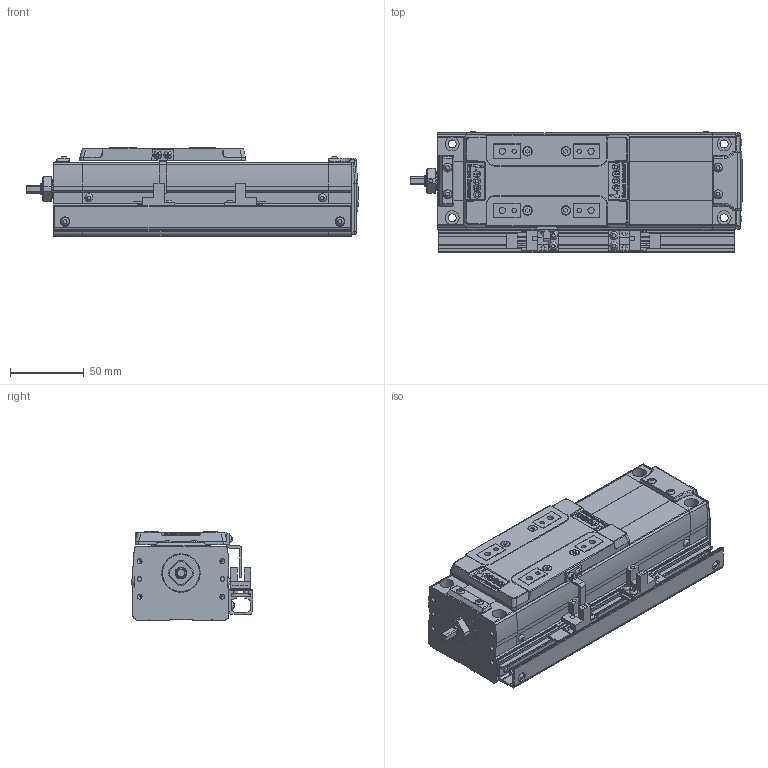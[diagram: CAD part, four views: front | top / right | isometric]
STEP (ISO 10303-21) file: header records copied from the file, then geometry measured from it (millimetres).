
FILE_DESCRIPTION(('STEP AP214'),'1');
FILE_NAME('Z:/Web/3D/SAN65/STP/SAN65ㅁㅁ-050+2SR.stp','2012-06-14T00:11:06',(' '),(' '),'Spatial InterOp 3D',' ',' ');
FILE_SCHEMA(('automotive_design'));
Length unit declared in the file: metre
Products named in the file (46): SAN65__-050; BODY-SAN65; REAR-SAN65; RRCV-SAN65; 스크루 : Round - M3.0 x 6.0; FRONT-SAN65; SHAFT-SAN65; RN8 x 0.75; SSFX-SAN65; SLIDE-SAN65; SLCV-SAN65; 스크루 : Countersunk - M3.0 x 6.0; ____197; 2SR; SRL-16x17-450L; - OT; EE-SX674; SBK-SX674-352; + OT; DOG; SDG-SAN65; 스크루 : Round - M3.0 x 5.0
Assembly tree (45 placements, depth 4):
  ____197
    SAN65__-050
      BODY-SAN65
      REAR-SAN65
        REAR-SAN65
        RRCV-SAN65
        스크루 : Round - M3.0 x 6.0
        스크루 : Round - M3.0 x 6.0
        스크루 : Round - M3.0 x 6.0
        스크루 : Round - M3.0 x 6.0
        스크루 : Round - M3.0 x 6.0
        스크루 : Round - M3.0 x 6.0
      FRONT-SAN65
        FRONT-SAN65
        SHAFT-SAN65
        RN8 x 0.75
        SSFX-SAN65
        스크루 : Round - M3.0 x 6.0
        스크루 : Round - M3.0 x 6.0
        스크루 : Round - M3.0 x 6.0
        스크루 : Round - M3.0 x 6.0
      SLIDE-SAN65
        SLIDE-SAN65
        SLCV-SAN65
        스크루 : Countersunk - M3.0 x 6.0
        스크루 : Countersunk - M3.0 x 6.0
        스크루 : Countersunk - M3.0 x 6.0
        스크루 : Countersunk - M3.0 x 6.0
    2SR
      SRL-16x17-450L
      스크루 : Round - M3.0 x 6.0
      스크루 : Round - M3.0 x 6.0
      - OT
        EE-SX674
        SBK-SX674-352
        스크루 : Round - M3.0 x 6.0
        스크루 : Round - M3.0 x 6.0
      + OT
        EE-SX674
        SBK-SX674-352
        스크루 : Round - M3.0 x 6.0
        스크루 : Round - M3.0 x 6.0
      DOG
        SDG-SAN65
        스크루 : Round - M3.0 x 5.0
        스크루 : Round - M3.0 x 5.0
Bounding box: 224.65 x 82.06 x 60 mm (x, y, z)
Volume: 709914.2 mm3; surface area: 148808.3 mm2
Topology: 37 solids, 37 shells, 1746 faces, 4501 edges, 2940 vertices
Faces by surface type: plane 1154, cylinder 445, cone 73, sphere 30, bspline 26, torus 15, extrusion 3
Full cylindrical faces by diameter (mm): 0.571 x2, 0.706 x1, 1.727 x2, 2.132 x1, 2.2 x4, 2.5 x13, 2.528 x4, 3 x6, 3.121 x2, 3.3 x4, 3.4 x4, 3.5 x12, 4.2 x14, 4.849 x4, 5 x3, 5.5 x4, 5.987 x2, 6 x6, 6.5 x2, 7 x1, 8 x4, 9.5 x4, 13 x1, 15 x1, 19 x1
Entity records: 71040 total; most frequent: CARTESIAN_POINT 13697, DIRECTION 8837, ORIENTED_EDGE 8476, EDGE_CURVE 4238, VECTOR 3001, LINE 2998, AXIS2_PLACEMENT_3D 2918, VERTEX_POINT 2882
